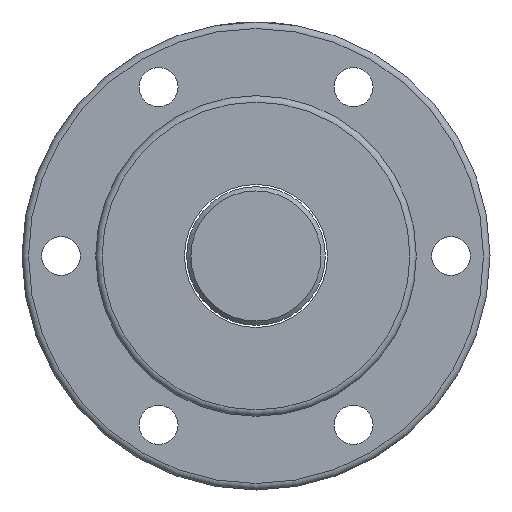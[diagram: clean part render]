
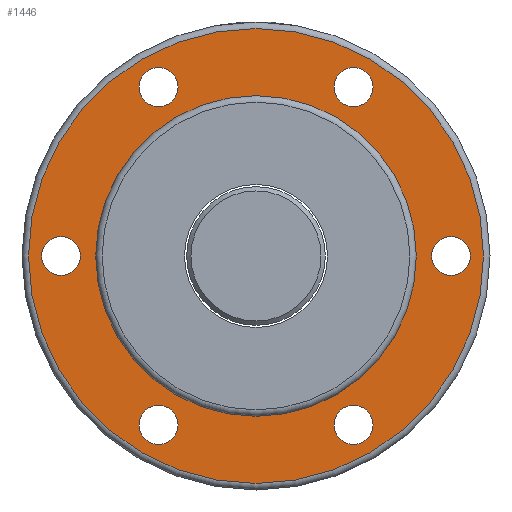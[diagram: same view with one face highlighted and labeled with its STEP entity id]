
A CAD part, left-side view. The second image highlights one B-rep face of the part: STEP entity #1446.
In plain terms, the highlighted planar face has unit normal (-1, 0, 0).
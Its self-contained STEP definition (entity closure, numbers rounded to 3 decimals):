
#4 = CARTESIAN_POINT ( 'NONE',  ( -32., 40.5, 0. ) ) ;
#9 = DIRECTION ( 'NONE',  ( 0., 1., 0. ) ) ;
#47 = ORIENTED_EDGE ( 'NONE', *, *, #1098, .F. ) ;
#71 = EDGE_CURVE ( 'NONE', #2341, #2341, #1302, .T. ) ;
#76 = CARTESIAN_POINT ( 'NONE',  ( -32., -22.5, -38.971 ) ) ;
#86 = AXIS2_PLACEMENT_3D ( 'NONE', #864, #2736, #211 ) ;
#197 = VERTEX_POINT ( 'NONE', #638 ) ;
#203 = CIRCLE ( 'NONE', #2024, 4.5 ) ;
#211 = DIRECTION ( 'NONE',  ( 0., -1., 0. ) ) ;
#212 = FACE_BOUND ( 'NONE', #1863, .T. ) ;
#231 = AXIS2_PLACEMENT_3D ( 'NONE', #76, #2089, #951 ) ;
#421 = CARTESIAN_POINT ( 'NONE',  ( -32., 37., 0. ) ) ;
#434 = CARTESIAN_POINT ( 'NONE',  ( -32., 0., 0. ) ) ;
#448 = FACE_BOUND ( 'NONE', #1733, .T. ) ;
#565 = EDGE_CURVE ( 'NONE', #1652, #1652, #1873, .T. ) ;
#570 = DIRECTION ( 'NONE',  ( 0., -1., 0. ) ) ;
#577 = DIRECTION ( 'NONE',  ( 0., -1., 0. ) ) ;
#610 = CARTESIAN_POINT ( 'NONE',  ( -32., 22.5, -38.971 ) ) ;
#611 = EDGE_CURVE ( 'NONE', #953, #953, #203, .T. ) ;
#623 = DIRECTION ( 'NONE',  ( -1., 0., 0. ) ) ;
#638 = CARTESIAN_POINT ( 'NONE',  ( -32., -49.5, 0. ) ) ;
#668 = EDGE_LOOP ( 'NONE', ( #926 ) ) ;
#705 = FACE_BOUND ( 'NONE', #668, .T. ) ;
#723 = EDGE_LOOP ( 'NONE', ( #47 ) ) ;
#864 = CARTESIAN_POINT ( 'NONE',  ( -32., -45., 0. ) ) ;
#871 = DIRECTION ( 'NONE',  ( 0., 1., 0. ) ) ;
#873 = EDGE_CURVE ( 'NONE', #2529, #2529, #2111, .T. ) ;
#893 = DIRECTION ( 'NONE',  ( 0., -1., 0. ) ) ;
#901 = DIRECTION ( 'NONE',  ( 0., 0., 1. ) ) ;
#926 = ORIENTED_EDGE ( 'NONE', *, *, #873, .F. ) ;
#951 = DIRECTION ( 'NONE',  ( 0., -1., 0. ) ) ;
#953 = VERTEX_POINT ( 'NONE', #1606 ) ;
#1005 = CARTESIAN_POINT ( 'NONE',  ( -32., -22.5, 38.971 ) ) ;
#1058 = AXIS2_PLACEMENT_3D ( 'NONE', #1005, #2849, #570 ) ;
#1071 = CARTESIAN_POINT ( 'NONE',  ( -32., 45., 0. ) ) ;
#1073 = DIRECTION ( 'NONE',  ( -1., 0., 0. ) ) ;
#1098 = EDGE_CURVE ( 'NONE', #1775, #1775, #1886, .T. ) ;
#1122 = ORIENTED_EDGE ( 'NONE', *, *, #1538, .F. ) ;
#1130 = FACE_BOUND ( 'NONE', #2426, .T. ) ;
#1166 = CARTESIAN_POINT ( 'NONE',  ( -32., 18., -38.971 ) ) ;
#1195 = CARTESIAN_POINT ( 'NONE',  ( -32., -27., 38.971 ) ) ;
#1196 = AXIS2_PLACEMENT_3D ( 'NONE', #610, #1073, #577 ) ;
#1302 = CIRCLE ( 'NONE', #1058, 4.5 ) ;
#1321 = EDGE_CURVE ( 'NONE', #2505, #2505, #1769, .T. ) ;
#1371 = AXIS2_PLACEMENT_3D ( 'NONE', #434, #2041, #9 ) ;
#1386 = FACE_OUTER_BOUND ( 'NONE', #723, .T. ) ;
#1446 = ADVANCED_FACE ( 'NONE', ( #1610, #212, #705, #1587, #2509, #448, #1130, #1386 ), #2054, .T. ) ;
#1494 = AXIS2_PLACEMENT_3D ( 'NONE', #1071, #1721, #2445 ) ;
#1538 = EDGE_CURVE ( 'NONE', #1800, #1800, #2147, .T. ) ;
#1557 = EDGE_LOOP ( 'NONE', ( #1122 ) ) ;
#1587 = FACE_BOUND ( 'NONE', #1557, .T. ) ;
#1606 = CARTESIAN_POINT ( 'NONE',  ( -32., 18., 38.971 ) ) ;
#1610 = FACE_BOUND ( 'NONE', #2675, .T. ) ;
#1612 = AXIS2_PLACEMENT_3D ( 'NONE', #2538, #2970, #901 ) ;
#1652 = VERTEX_POINT ( 'NONE', #4 ) ;
#1656 = EDGE_CURVE ( 'NONE', #197, #197, #2773, .T. ) ;
#1718 = ORIENTED_EDGE ( 'NONE', *, *, #611, .F. ) ;
#1721 = DIRECTION ( 'NONE',  ( -1., 0., 0. ) ) ;
#1733 = EDGE_LOOP ( 'NONE', ( #1718 ) ) ;
#1740 = CARTESIAN_POINT ( 'NONE',  ( -32., 22.5, 38.971 ) ) ;
#1769 = CIRCLE ( 'NONE', #1371, 37. ) ;
#1775 = VERTEX_POINT ( 'NONE', #2489 ) ;
#1800 = VERTEX_POINT ( 'NONE', #2465 ) ;
#1863 = EDGE_LOOP ( 'NONE', ( #2376 ) ) ;
#1873 = CIRCLE ( 'NONE', #1494, 4.5 ) ;
#1886 = CIRCLE ( 'NONE', #2561, 52.5 ) ;
#2024 = AXIS2_PLACEMENT_3D ( 'NONE', #1740, #623, #893 ) ;
#2026 = CARTESIAN_POINT ( 'NONE',  ( -32., 0., 0. ) ) ;
#2041 = DIRECTION ( 'NONE',  ( 1., 0., 0. ) ) ;
#2054 = PLANE ( 'NONE',  #1612 ) ;
#2089 = DIRECTION ( 'NONE',  ( -1., 0., 0. ) ) ;
#2111 = CIRCLE ( 'NONE', #1196, 4.5 ) ;
#2147 = CIRCLE ( 'NONE', #231, 4.5 ) ;
#2341 = VERTEX_POINT ( 'NONE', #1195 ) ;
#2376 = ORIENTED_EDGE ( 'NONE', *, *, #1656, .F. ) ;
#2426 = EDGE_LOOP ( 'NONE', ( #2690 ) ) ;
#2445 = DIRECTION ( 'NONE',  ( 0., -1., 0. ) ) ;
#2458 = ORIENTED_EDGE ( 'NONE', *, *, #565, .F. ) ;
#2465 = CARTESIAN_POINT ( 'NONE',  ( -32., -27., -38.971 ) ) ;
#2489 = CARTESIAN_POINT ( 'NONE',  ( -32., 52.5, 0. ) ) ;
#2505 = VERTEX_POINT ( 'NONE', #421 ) ;
#2509 = FACE_BOUND ( 'NONE', #2800, .T. ) ;
#2529 = VERTEX_POINT ( 'NONE', #1166 ) ;
#2538 = CARTESIAN_POINT ( 'NONE',  ( -32., 44.75, 0. ) ) ;
#2561 = AXIS2_PLACEMENT_3D ( 'NONE', #2026, #2943, #871 ) ;
#2576 = ORIENTED_EDGE ( 'NONE', *, *, #71, .F. ) ;
#2675 = EDGE_LOOP ( 'NONE', ( #2458 ) ) ;
#2690 = ORIENTED_EDGE ( 'NONE', *, *, #1321, .T. ) ;
#2736 = DIRECTION ( 'NONE',  ( -1., 0., 0. ) ) ;
#2773 = CIRCLE ( 'NONE', #86, 4.5 ) ;
#2800 = EDGE_LOOP ( 'NONE', ( #2576 ) ) ;
#2849 = DIRECTION ( 'NONE',  ( -1., 0., 0. ) ) ;
#2943 = DIRECTION ( 'NONE',  ( 1., 0., 0. ) ) ;
#2970 = DIRECTION ( 'NONE',  ( -1., 0., 0. ) ) ;
